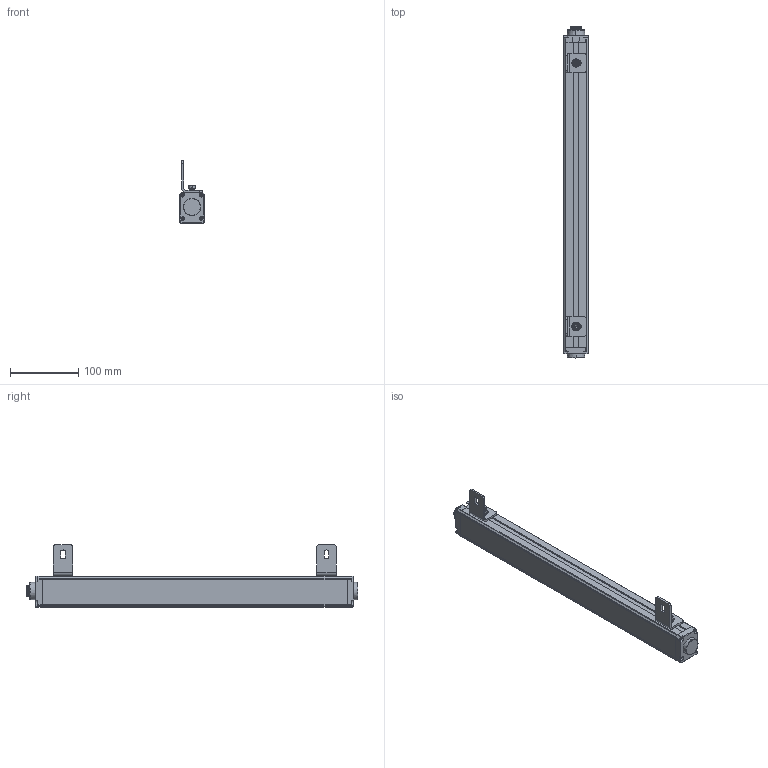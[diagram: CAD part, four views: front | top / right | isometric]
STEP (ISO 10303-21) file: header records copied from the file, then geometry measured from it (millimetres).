
FILE_DESCRIPTION((''),'2;1');
FILE_NAME('ESCL-00_ASM','2021-07-17T12:16:19',('18720616900'),(''),'CREO PARAMETRIC BY PTC INC, 2019010','CREO PARAMETRIC BY PTC INC, 2019010','');
FILE_SCHEMA(('CONFIG_CONTROL_DESIGN'));
Products named in the file (12): ESCL-00; ESCL-3-SOLID1000; ESCL-4-SOLID1000; HKCT1_-4-SOLID1; L10001; M6-8--0001; M6-1--00; M6-1-00; 00; M6-80001_ASM; L1--0001_ASM; ESCL-00_ASM
Assembly tree (12 placements, depth 4):
  ESCL-00_ASM
    ESCL-00
    ESCL-3-SOLID1000
    ESCL-4-SOLID1000
    HKCT1_-4-SOLID1
    L1--0001_ASM  x2
      L10001
      M6-80001_ASM
        M6-8--0001
        M6-1--00
        M6-1-00
        00
Bounding box: 36.1 x 485.1 x 91.11 mm (x, y, z)
Volume: 688901.3 mm3; surface area: 115279.6 mm2
Topology: 14 solids, 14 shells, 625 faces, 1645 edges, 1070 vertices
Faces by surface type: plane 226, cylinder 208, cone 78, bspline 66, torus 47
Entity records: 76177 total; most frequent: CARTESIAN_POINT 63991, ORIENTED_EDGE 2664, DIRECTION 2275, EDGE_CURVE 1332, VERTEX_POINT 872, AXIS2_PLACEMENT_3D 816, VECTOR 643, LINE 643
